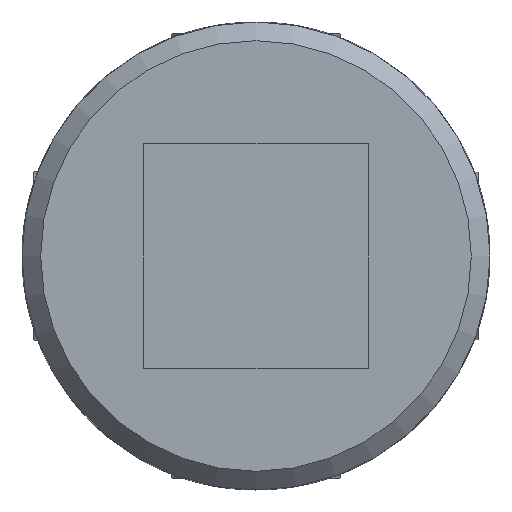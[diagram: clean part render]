
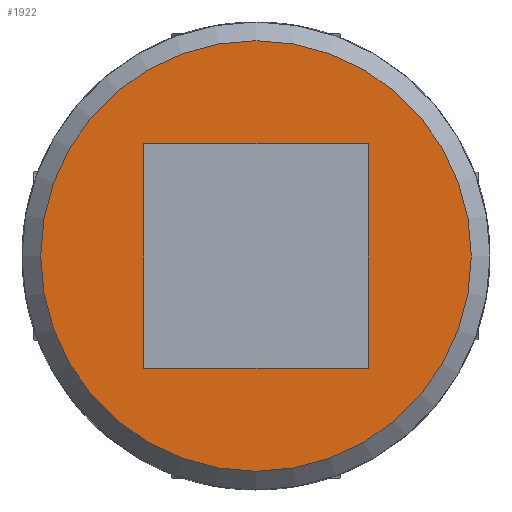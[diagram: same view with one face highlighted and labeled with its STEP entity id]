
A CAD part, front view. The second image highlights one B-rep face of the part: STEP entity #1922.
In plain terms, the highlighted planar face has unit normal (0, -1, 0).
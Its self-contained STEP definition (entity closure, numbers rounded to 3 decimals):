
#112=LINE('',#3582,#176);
#116=LINE('',#3605,#180);
#122=LINE('',#3643,#186);
#125=LINE('',#3663,#189);
#176=VECTOR('',#2499,12.);
#180=VECTOR('',#2507,12.);
#186=VECTOR('',#2515,12.);
#189=VECTOR('',#2522,12.);
#240=PLANE('',#2118);
#421=FACE_BOUND('',#670,.T.);
#517=FACE_OUTER_BOUND('',#669,.T.);
#669=EDGE_LOOP('',(#1675));
#670=EDGE_LOOP('',(#1676,#1677,#1678,#1679));
#774=CIRCLE('',#2116,11.5);
#919=VERTEX_POINT('',#3579);
#920=VERTEX_POINT('',#3581);
#926=VERTEX_POINT('',#3604);
#935=VERTEX_POINT('',#3641);
#942=VERTEX_POINT('',#3708);
#1159=EDGE_CURVE('',#920,#919,#112,.T.);
#1166=EDGE_CURVE('',#926,#920,#116,.T.);
#1176=EDGE_CURVE('',#919,#935,#122,.T.);
#1182=EDGE_CURVE('',#935,#926,#125,.T.);
#1193=EDGE_CURVE('',#942,#942,#774,.T.);
#1675=ORIENTED_EDGE('',*,*,#1193,.F.);
#1676=ORIENTED_EDGE('',*,*,#1159,.T.);
#1677=ORIENTED_EDGE('',*,*,#1176,.T.);
#1678=ORIENTED_EDGE('',*,*,#1182,.T.);
#1679=ORIENTED_EDGE('',*,*,#1166,.T.);
#1922=ADVANCED_FACE('',(#517,#421),#240,.F.);
#2116=AXIS2_PLACEMENT_3D('',#3709,#2551,#2552);
#2118=AXIS2_PLACEMENT_3D('',#3925,#2559,#2560);
#2499=DIRECTION('',(0.,0.,-1.));
#2507=DIRECTION('',(1.,0.,0.));
#2515=DIRECTION('',(-1.,0.,0.));
#2522=DIRECTION('',(0.,0.,1.));
#2551=DIRECTION('center_axis',(0.,1.,0.));
#2552=DIRECTION('ref_axis',(1.,0.,0.));
#2559=DIRECTION('center_axis',(0.,1.,0.));
#2560=DIRECTION('ref_axis',(0.,0.,1.));
#3579=CARTESIAN_POINT('',(6.,-34.5,-6.));
#3581=CARTESIAN_POINT('',(6.,-34.5,6.));
#3582=CARTESIAN_POINT('',(6.,-34.5,3.));
#3604=CARTESIAN_POINT('',(-6.,-34.5,6.));
#3605=CARTESIAN_POINT('',(-3.,-34.5,6.));
#3641=CARTESIAN_POINT('',(-6.,-34.5,-6.));
#3643=CARTESIAN_POINT('',(3.,-34.5,-6.));
#3663=CARTESIAN_POINT('',(-6.,-34.5,-3.));
#3708=CARTESIAN_POINT('',(-11.5,-34.5,0.));
#3709=CARTESIAN_POINT('Origin',(0.,-34.5,0.));
#3925=CARTESIAN_POINT('Origin',(0.,-34.5,0.));
